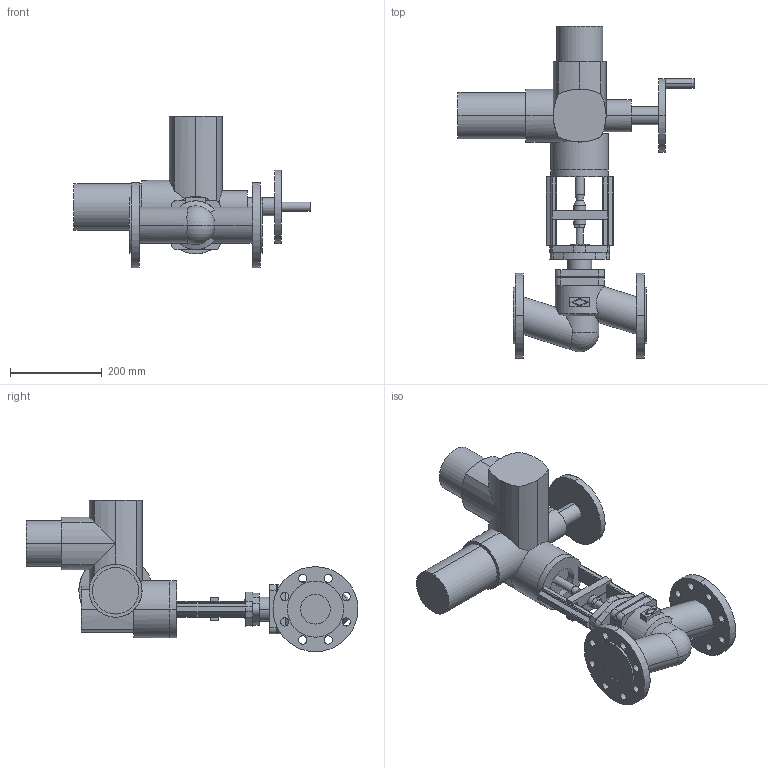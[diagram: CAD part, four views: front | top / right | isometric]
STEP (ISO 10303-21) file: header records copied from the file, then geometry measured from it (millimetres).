
FILE_DESCRIPTION(('OneSpaceDesigner STEP Export'),'2;1');
FILE_NAME('c000003097.stp','2007-01-09T11:39:10',(''),(''),'OneSpace Designer STEP processor for AP214 (Solid Model)','OneSpace Designer 14.00B 27-May-2006 (C) CoCreate Software GmbH','');
FILE_SCHEMA(('AUTOMOTIVE_DESIGN { 1 0 10303 214 1 1 1 1 }'));
Length unit declared in the file: millimetre
Products named in the file (3): 1; 2; 3
Bounding box: 514 x 722.5 x 329.5 mm (x, y, z)
Volume: 11833821.2 mm3; surface area: 730753.2 mm2
Topology: 3 solids, 3 shells, 281 faces, 724 edges, 463 vertices
Faces by surface type: cylinder 148, plane 125, cone 6, sphere 2
Entity records: 8417 total; most frequent: CARTESIAN_POINT 1935, ORIENTED_EDGE 1444, DIRECTION 1201, EDGE_CURVE 722, VERTEX_POINT 463, AXIS2_PLACEMENT_3D 406, VECTOR 389, LINE 389
